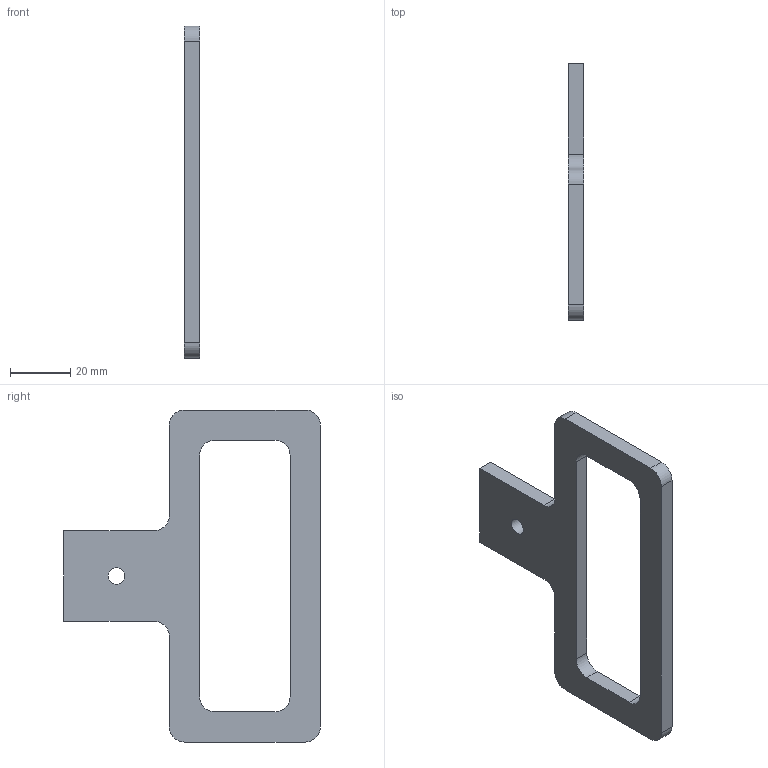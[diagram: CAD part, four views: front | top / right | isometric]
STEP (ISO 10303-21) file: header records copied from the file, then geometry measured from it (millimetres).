
FILE_DESCRIPTION(/* description */ (''),/* implementation_level */ '2;1');
FILE_NAME(/* name */ 'Koncowka_5_PAX v6.step',/* time_stamp */ '2026-04-10T14:31:01+02:00',/* author */ (''),/* organization */ (''),/* preprocessor_version */ 'ST-DEVELOPER v20.1',/* originating_system */ 'Autodesk Translation Framework v14.24.0.0',/* authorisation */ '');
FILE_SCHEMA (('AUTOMOTIVE_DESIGN { 1 0 10303 214 3 1 1 }'));
Length unit declared in the file: millimetre
Products named in the file (1): Katalog główny CAM
Bounding box: 5 x 85 x 110 mm (x, y, z)
Volume: 19184.9 mm3; surface area: 10803 mm2
Topology: 1 solids, 1 shells, 25 faces, 69 edges, 46 vertices
Faces by surface type: plane 14, cylinder 11
Full cylindrical faces by diameter (mm): 5.5 x1
Entity records: 846 total; most frequent: DIRECTION 143, CARTESIAN_POINT 141, ORIENTED_EDGE 138, EDGE_CURVE 69, AXIS2_PLACEMENT_3D 48, LINE 47, VECTOR 47, VERTEX_POINT 46
